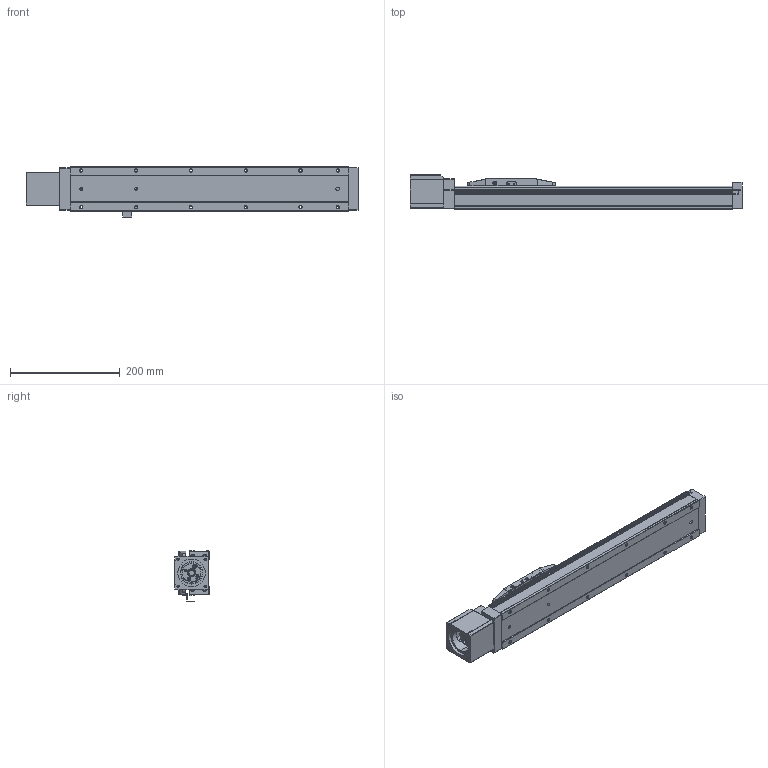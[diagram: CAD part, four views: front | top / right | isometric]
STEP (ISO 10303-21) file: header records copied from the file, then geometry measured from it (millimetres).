
FILE_DESCRIPTION (( 'STEP AP203' ), '1' );
FILE_NAME ('EFS-08E_MY.STEP', '2025-07-17T09:20:30', ( '' ), ( '' ), 'SwSTEP 2.0', 'SolidWorks 2024', '' );
FILE_SCHEMA (( 'CONFIG_CONTROL_DESIGN' ));
Length unit declared in the file: millimetre
Products named in the file (1): EFS-08E_MY
Bounding box: 606 x 62.5 x 94.5 mm (x, y, z)
Volume: 1982129.8 mm3; surface area: 270434.3 mm2
Topology: 12 solids, 12 shells, 1106 faces, 2859 edges, 1822 vertices
Faces by surface type: plane 454, cylinder 433, cone 129, bspline 42, torus 38, sphere 10
Entity records: 36744 total; most frequent: CARTESIAN_POINT 9583, DIRECTION 5679, ORIENTED_EDGE 5654, EDGE_CURVE 2827, AXIS2_PLACEMENT_3D 2051, VERTEX_POINT 1822, VECTOR 1577, LINE 1577
